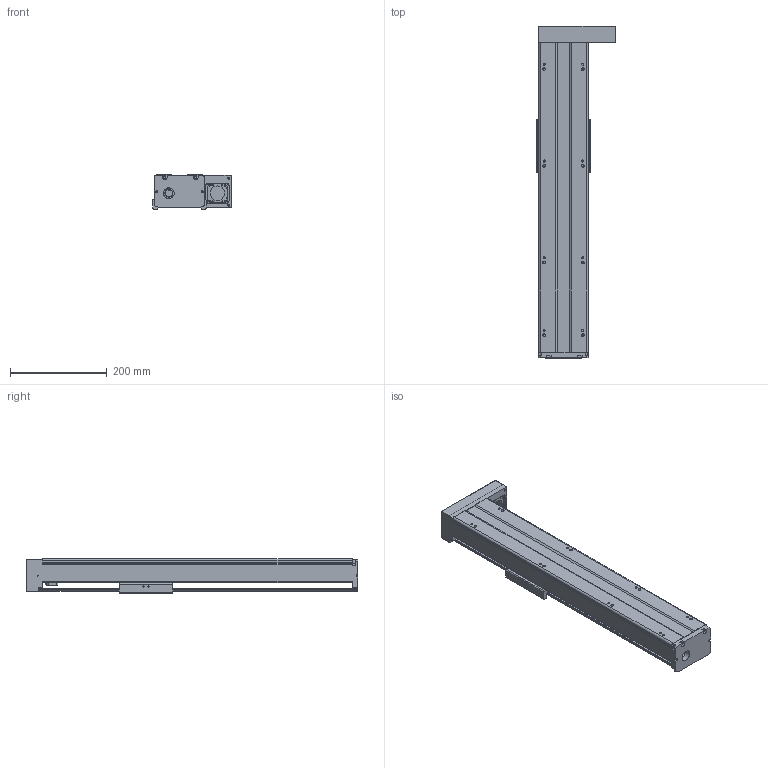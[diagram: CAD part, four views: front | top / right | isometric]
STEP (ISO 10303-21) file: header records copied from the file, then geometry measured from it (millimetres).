
FILE_DESCRIPTION(/* description */ (''),/* implementation_level */ '2;1');
FILE_NAME(/* name */ 'TKA100-FR-450_asm1.stp',/* time_stamp */ '2016-05-17T15:34:32+08:00',/* author */ (''),/* organization */ (''),/* preprocessor_version */ 'ST-DEVELOPER v15',/* originating_system */ 'SIEMENS PLM Software NX 8.5',/* authorisation */ '');
FILE_SCHEMA (('AUTOMOTIVE_DESIGN { 1 0 10303 214 3 1 1 1 }'));
Length unit declared in the file: millimetre
Products named in the file (3): 200-2; 200-1; TKA100-FR-450_asm1
Assembly tree (2 placements, depth 2):
  TKA100-FR-450_asm1
    200-1
    200-2
Bounding box: 162 x 686 x 71 mm (x, y, z)
Volume: 1577121.3 mm3; surface area: 539410 mm2
Topology: 2 solids, 16 shells, 788 faces, 2043 edges, 1332 vertices
Faces by surface type: plane 320, cylinder 295, cone 119, torus 28, bspline 26
Full cylindrical faces by diameter (mm): 2.5 x6, 2.6 x8, 3.3 x11, 3.4 x4, 3.8 x8, 4.2 x17, 4.3 x4, 4.5 x6, 5 x2, 5.5 x16, 6.6 x4, 8 x4, 9 x6, 10 x9, 11 x4, 12 x6, 15.3 x1, 16 x1, 22 x1, 24 x1, 28 x2, 30 x1, 33 x1
Entity records: 28780 total; most frequent: CARTESIAN_POINT 10534, DIRECTION 3741, ORIENTED_EDGE 3552, EDGE_CURVE 1776, AXIS2_PLACEMENT_3D 1473, VERTEX_POINT 1254, EDGE_LOOP 1075, LINE 795
